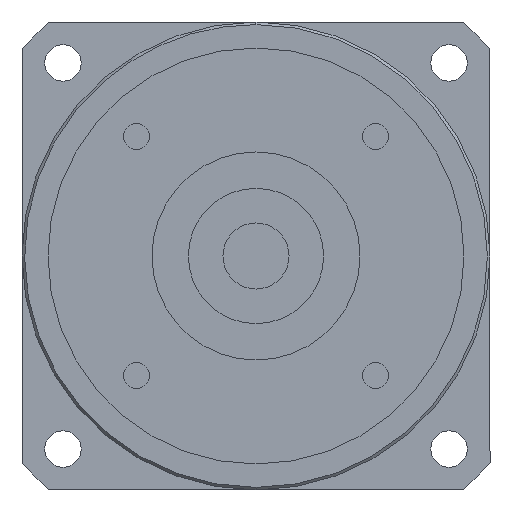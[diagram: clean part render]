
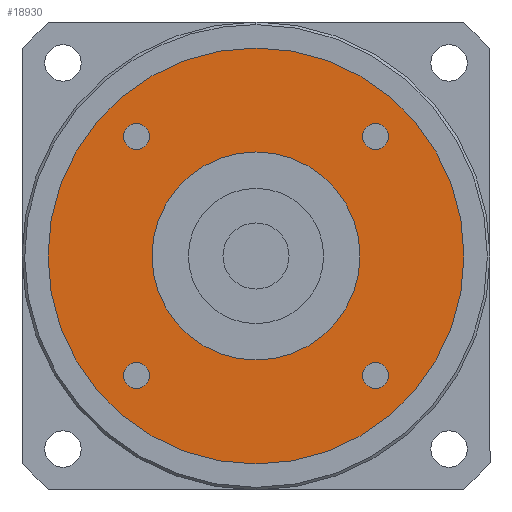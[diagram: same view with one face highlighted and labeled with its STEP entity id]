
A CAD part, left-side view. The second image highlights one B-rep face of the part: STEP entity #18930.
In plain terms, the highlighted planar face has unit normal (-1, 0, 0) as drawn and (0, 0, -1) by its records, which use the part's own axes.
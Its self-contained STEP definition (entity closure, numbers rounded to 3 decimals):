
#15710=CARTESIAN_POINT('',(-20.481,-22.981,-117.));
#15720=VERTEX_POINT('',#15710);
#15900=CARTESIAN_POINT('',(-25.481,-22.981,-117.));
#15910=VERTEX_POINT('',#15900);
#15940=CARTESIAN_POINT('',(-22.981,-22.981,-117.));
#15950=DIRECTION('',(0.,0.,-1.));
#15960=DIRECTION('',(0.,-1.,0.));
#15970=AXIS2_PLACEMENT_3D('',#15940,#15950,#15960);
#15980=CIRCLE('',#15970,2.5);
#15990=CARTESIAN_POINT('',(-22.981,-25.481,-117.));
#16000=VERTEX_POINT('',#15990);
#16010=EDGE_CURVE('',#16000,#15910,#15980,.T.);
#16030=EDGE_CURVE('',#15720,#16000,#15980,.T.);
#16130=CARTESIAN_POINT('',(0.,0.,
-117.));
#16140=DIRECTION('',(0.,0.,1.));
#16150=DIRECTION('',(0.,-1.,0.));
#16160=AXIS2_PLACEMENT_3D('',#16130,#16140,#16150);
#16170=CIRCLE('',#16160,20.);
#16180=CARTESIAN_POINT('',(0.,-20.,-117.));
#16190=VERTEX_POINT('',#16180);
#16200=CARTESIAN_POINT('',(20.,0.,-117.));
#16210=VERTEX_POINT('',#16200);
#16220=EDGE_CURVE('',#16190,#16210,#16170,.T.);
#16450=CARTESIAN_POINT('',(-20.,0.,-117.));
#16460=VERTEX_POINT('',#16450);
#16490=EDGE_CURVE('',#16460,#16190,#16170,.T.);
#17860=CARTESIAN_POINT('',(40.,0.,-117.));
#17870=VERTEX_POINT('',#17860);
#17900=CARTESIAN_POINT('',(0.,0.,
-117.));
#17910=DIRECTION('',(0.,0.,1.));
#17920=DIRECTION('',(0.,-1.,0.));
#17930=AXIS2_PLACEMENT_3D('',#17900,#17910,#17920);
#17940=CIRCLE('',#17930,40.);
#17950=CARTESIAN_POINT('',(0.,-40.,-117.));
#17960=VERTEX_POINT('',#17950);
#17970=EDGE_CURVE('',#17960,#17870,#17940,.T.);
#17990=CARTESIAN_POINT('',(-40.,0.,-117.));
#18000=VERTEX_POINT('',#17990);
#18010=EDGE_CURVE('',#18000,#17960,#17940,.T.);
#18130=CARTESIAN_POINT('',(0.,0.,
-117.));
#18140=DIRECTION('',(0.,0.,1.));
#18150=DIRECTION('',(-1.,0.,0.));
#18160=AXIS2_PLACEMENT_3D('',#18130,#18140,#18150);
#18170=PLANE('',#18160);
#18180=CARTESIAN_POINT('',(22.981,-22.981,-117.));
#18190=DIRECTION('',(0.,0.,-1.));
#18200=DIRECTION('',(1.,0.,0.));
#18210=AXIS2_PLACEMENT_3D('',#18180,#18190,#18200);
#18220=CIRCLE('',#18210,2.5);
#18230=CARTESIAN_POINT('',(25.481,-22.981,-117.));
#18240=VERTEX_POINT('',#18230);
#18250=CARTESIAN_POINT('',(22.981,-25.481,-117.));
#18260=VERTEX_POINT('',#18250);
#18270=EDGE_CURVE('',#18240,#18260,#18220,.T.);
#18280=ORIENTED_EDGE('',*,*,#18270,.F.);
#18290=CARTESIAN_POINT('',(22.981,-20.481,-117.));
#18300=VERTEX_POINT('',#18290);
#18310=EDGE_CURVE('',#18260,#18300,#18220,.T.);
#18320=ORIENTED_EDGE('',*,*,#18310,.F.);
#18330=EDGE_CURVE('',#18300,#18240,#18220,.T.);
#18340=ORIENTED_EDGE('',*,*,#18330,.F.);
#18350=EDGE_LOOP('',(#18340,#18320,#18280));
#18360=FACE_BOUND('',#18350,.T.);
#18370=CARTESIAN_POINT('',(22.981,22.981,-117.));
#18380=DIRECTION('',(0.,0.,-1.));
#18390=DIRECTION('',(0.,1.,0.));
#18400=AXIS2_PLACEMENT_3D('',#18370,#18380,#18390);
#18410=CIRCLE('',#18400,2.5);
#18420=CARTESIAN_POINT('',(22.981,25.481,-117.));
#18430=VERTEX_POINT('',#18420);
#18440=CARTESIAN_POINT('',(25.481,22.981,-117.));
#18450=VERTEX_POINT('',#18440);
#18460=EDGE_CURVE('',#18430,#18450,#18410,.T.);
#18470=ORIENTED_EDGE('',*,*,#18460,.F.);
#18480=CARTESIAN_POINT('',(20.481,22.981,-117.));
#18490=VERTEX_POINT('',#18480);
#18500=EDGE_CURVE('',#18450,#18490,#18410,.T.);
#18510=ORIENTED_EDGE('',*,*,#18500,.F.);
#18520=EDGE_CURVE('',#18490,#18430,#18410,.T.);
#18530=ORIENTED_EDGE('',*,*,#18520,.F.);
#18540=EDGE_LOOP('',(#18530,#18510,#18470));
#18550=FACE_BOUND('',#18540,.T.);
#18560=CARTESIAN_POINT('',(-22.981,22.981,-117.));
#18570=DIRECTION('',(0.,0.,-1.));
#18580=DIRECTION('',(-1.,0.,0.));
#18590=AXIS2_PLACEMENT_3D('',#18560,#18570,#18580);
#18600=CIRCLE('',#18590,2.5);
#18610=CARTESIAN_POINT('',(-25.481,22.981,-117.));
#18620=VERTEX_POINT('',#18610);
#18630=CARTESIAN_POINT('',(-22.981,25.481,-117.));
#18640=VERTEX_POINT('',#18630);
#18650=EDGE_CURVE('',#18620,#18640,#18600,.T.);
#18660=ORIENTED_EDGE('',*,*,#18650,.F.);
#18670=CARTESIAN_POINT('',(-22.981,20.481,-117.));
#18680=VERTEX_POINT('',#18670);
#18690=EDGE_CURVE('',#18640,#18680,#18600,.T.);
#18700=ORIENTED_EDGE('',*,*,#18690,.F.);
#18710=EDGE_CURVE('',#18680,#18620,#18600,.T.);
#18720=ORIENTED_EDGE('',*,*,#18710,.F.);
#18730=EDGE_LOOP('',(#18720,#18700,#18660));
#18740=FACE_BOUND('',#18730,.T.);
#18750=ORIENTED_EDGE('',*,*,#16010,.F.);
#18760=EDGE_CURVE('',#15910,#15720,#15980,.T.);
#18770=ORIENTED_EDGE('',*,*,#18760,.F.);
#18780=ORIENTED_EDGE('',*,*,#16030,.F.);
#18790=EDGE_LOOP('',(#18780,#18770,#18750));
#18800=FACE_BOUND('',#18790,.T.);
#18810=ORIENTED_EDGE('',*,*,#17970,.F.);
#18820=EDGE_CURVE('',#17870,#18000,#17940,.T.);
#18830=ORIENTED_EDGE('',*,*,#18820,.F.);
#18840=ORIENTED_EDGE('',*,*,#18010,.F.);
#18850=EDGE_LOOP('',(#18840,#18830,#18810));
#18860=FACE_OUTER_BOUND('',#18850,.T.);
#18870=EDGE_CURVE('',#16210,#16460,#16170,.T.);
#18880=ORIENTED_EDGE('',*,*,#18870,.T.);
#18890=ORIENTED_EDGE('',*,*,#16220,.T.);
#18900=ORIENTED_EDGE('',*,*,#16490,.T.);
#18910=EDGE_LOOP('',(#18900,#18890,#18880));
#18920=FACE_BOUND('',#18910,.T.);
#18930=ADVANCED_FACE('',(#18360,#18550,#18740,#18800,#18860,#18920),
#18170,.F.);
